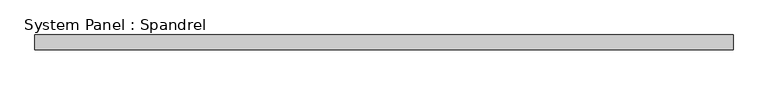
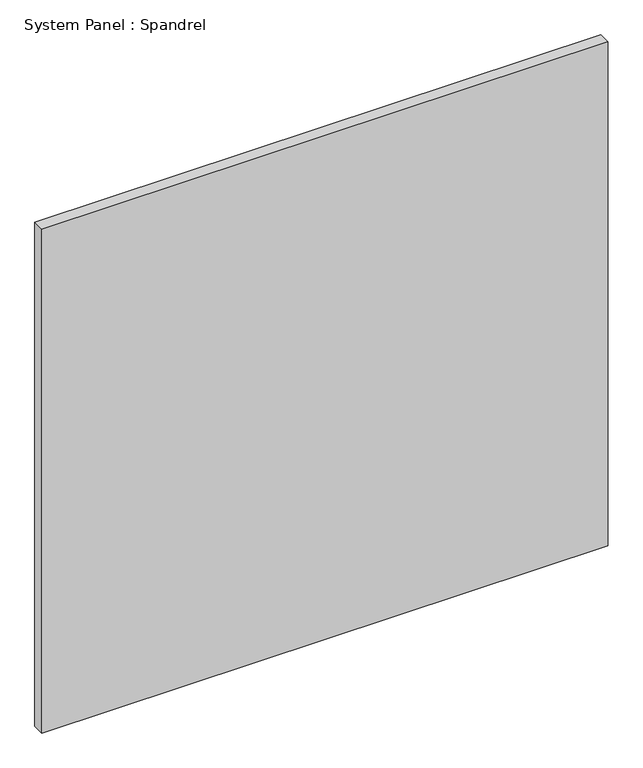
"""IFC4 building model written with IfcOpenShell, lengths in millimetres: plate geometry, System Panel : Spandrel."""

from ifc_helpers import new_model, si_unit, origin, origin_with_axes, place, context, project, spatial, polyline, outline, extrude, source, transform, mapped, element, save


def system_panel_spandrel_d597d42a(model_context):
    return source(origin(), model_context, "Body", "SweptSolid", [
        extrude(outline(polyline([(584.9999998, -25.0), (-584.9999998, -25.0), (-584.9999998, 0.0), (584.9999998, 0.0), (584.9999998, -25.0)])), origin_with_axes(), (0.0, 0.0, 1.0), 1100.0),
    ])


if __name__ == "__main__":
    model = new_model("IFC4")
    model_context = context("Model", 3, world=origin())
    ifc_project = project(units=[si_unit("LENGTHUNIT", "METRE", prefix="MILLI")], contexts=[model_context])
    site = spatial("IfcSite", under=ifc_project)
    building = spatial("IfcBuilding", under=site)
    placement = place(None, origin())
    system_panel_spandrel_shape = system_panel_spandrel_d597d42a(model_context)
    element("IfcPlate", 1, ObjectType="System Panel : Spandrel", at=placement, inside=building, context=model_context, shape_type="MappedRepresentation", body=[
        mapped(system_panel_spandrel_shape, transform((0.0, 0.0, 0.0), x_axis=(1.0, 0.0, 0.0), y_axis=(0.0, 1.0, 0.0), z_axis=(0.0, 0.0, 1.0))),
    ])
    save(model, "model.ifc")
